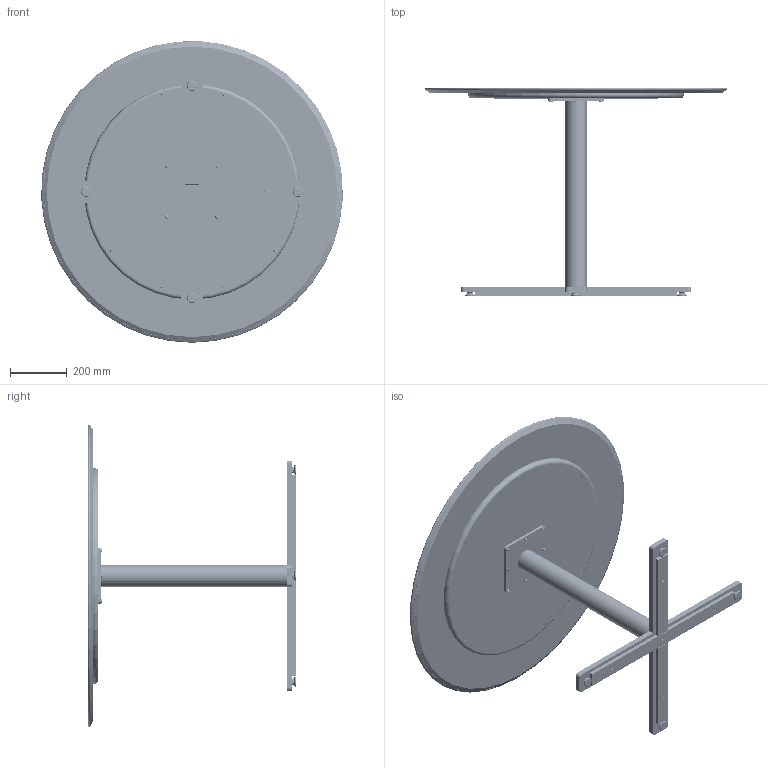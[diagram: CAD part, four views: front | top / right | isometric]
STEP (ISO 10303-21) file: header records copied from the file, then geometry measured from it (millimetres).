
FILE_DESCRIPTION(/* description */ ('CAPRI MEETING TABLE, 42'''' DIA X 29''''H '),/* implementation_level */ '2;1');
FILE_NAME(/* name */ '3140.stp',/* time_stamp */ '2025-07-03T13:28:25-04:00',/* author */ ('emendoza'),/* organization */ (''),/* preprocessor_version */ 'ST-DEVELOPER v20',/* originating_system */ 'Autodesk Inventor 2025',/* authorisation */ '');
FILE_SCHEMA (('AUTOMOTIVE_DESIGN { 1 0 10303 214 3 1 1 }'));
Products named in the file (38): 3140; 3140-010; 3140-011; 3140-011_1; 3140-012; 3140-013; HD01-036; MEFA300 ; 3138-019; 3140-014; 3140-015; 3140-016; HD01-127; HD01-167; PA013B; 3140-019; 3140-019_1; 3140-017 ; 3140-018 ; 3140-030 ; 3140-031; FA151; 95170-OS; 3140-040; 3140-041; 3140-042; 3140-044 ; 3140-045; 3140-046; 3140-047; 3140-043; 3140-043_1; 3140-043_2; 3140-043_3; 3140-043_4; 3140-043_5; 3140-043_6; FA012
Assembly tree (82 placements, depth 6):
  3140
    3140-010
      3140-011
        3140-011_1
        3140-012
        3140-013  x2
        HD01-036  x5
        MEFA300   x4
      3138-019
      3140-014
        3140-015
        3140-016  x2
      HD01-127  x6
      HD01-167  x5
      PA013B  x4
      3140-019
        3140-019_1
        3140-017 
        3140-018   x2
    3140-030 
      3140-031
      FA151  x8
    95170-OS  x8
    3140-040
      3140-041
        3140-042
          3140-044 
            3140-045
            3140-046
            3140-047
          3140-043
          3140-043_1
          3140-043_2
          3140-043_3
          3140-043_4
          3140-043_5
          3140-043_6
    FA012  x10
Bounding box: 1065.69 x 736.6 x 1065.81 mm (x, y, z)
Volume: 28768578.1 mm3; surface area: 7253569.4 mm2
Topology: 90 solids, 90 shells, 4425 faces, 11594 edges, 7672 vertices
Faces by surface type: cylinder 1929, plane 1466, cone 821, bspline 130, torus 71, sphere 8
Full cylindrical faces by diameter (mm): 2.812 x90, 3.489 x10, 4.166 x90, 4.7 x423, 4.762 x10, 4.978 x6, 6.104 x20, 6.35 x432, 6.747 x1, 7.144 x19, 7.747 x13, 7.925 x4, 7.938 x44, 8.433 x10, 9.525 x15, 11.112 x9, 12.497 x8, 12.7 x3, 13.494 x1, 19.05 x10, 19.844 x8, 22.225 x4, 25.4 x6, 50.8 x2, 68.516 x2, 70.104 x3, 76.2 x2, 762 x1, 1041.4 x1, 1050.925 x3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
Entity records: 50295 total; most frequent: CARTESIAN_POINT 24991, DIRECTION 4928, ORIENTED_EDGE 4920, EDGE_CURVE 2460, AXIS2_PLACEMENT_3D 1841, VERTEX_POINT 1627, LINE 1246, VECTOR 1246
